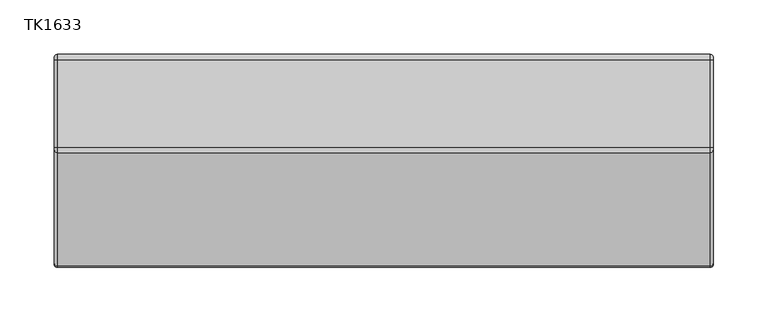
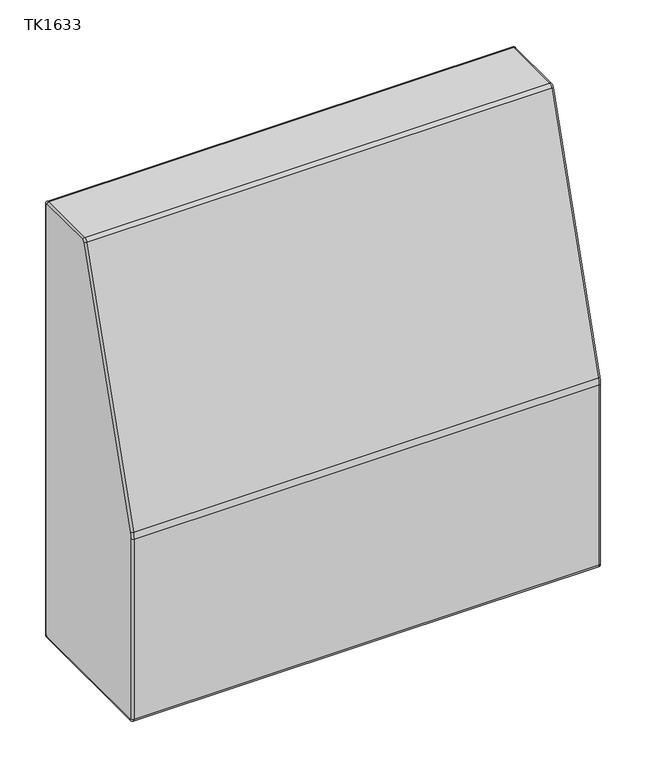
"""IFC4 building model written with IfcOpenShell, lengths in millimetres: furniture geometry, JSI-Teekan-Three_Seat_Lounge : TK1633."""

from ifc_helpers import new_model, si_unit, point, frame, origin, place, context, project, spatial, circle_curve, ellipse_curve, trimmed, source, transform, mapped, element, save
from ifc_brep_helpers import plane_surface, cylinder_surface, revolved_surface, advanced_brep


def tk1633_645ecb18(model_context):
    return source(origin(), model_context, "Body", "AdvancedBrep", [
        advanced_brep(
        [(302.6171875, 261.4671324, 783.3496278), (302.6171875, 263.7394056, 785.01875), (300.2359375, 263.7394056, 787.4), (300.2359375, 259.1948592, 784.0617556), (-300.2359375, 259.1948592, 784.0617556), (-300.2359375, 263.7394056, 787.4), (-302.6171875, 263.7394056, 785.01875), (-302.6171875, 261.4671324, 783.3496278), (300.2359375, 155.07802, 451.8434221), (302.6171875, 157.3502932, 451.1312943), (-302.6171875, 157.3502932, 451.1312943), (-300.2359375, 155.07802, 451.8434221), (300.2359375, 153.733973, 443.0605128), (302.6171875, 156.115223, 443.0605128), (-302.6171875, 156.115223, 443.0605128), (-300.2359375, 153.733973, 443.0605128), (300.2359375, 153.733973, 197.5346851), (302.6171875, 156.115223, 197.5346851), (-302.6171875, 156.115223, 197.5346851), (-300.2359375, 153.733973, 197.5346851), (300.2359375, 158.496473, 192.7721851), (302.6171875, 158.496473, 195.1534351), (-302.6171875, 158.496473, 195.1534351), (-300.2359375, 158.496473, 192.7721851), (300.2359375, 344.4875, 192.7721851), (302.6171875, 344.4875, 195.1534351), (-302.6171875, 344.4875, 195.1534351), (-300.2359375, 344.4875, 192.7721851), (300.2359375, 349.25, 197.5346851), (302.6171875, 346.86875, 197.5346851), (-302.6171875, 346.86875, 197.5346851), (-300.2359375, 349.25, 197.5346851), (300.2359375, 349.25, 782.6375), (302.6171875, 346.86875, 782.6375), (-302.6171875, 346.86875, 782.6375), (-300.2359375, 349.25, 782.6375), (300.2359375, 344.4875, 787.4), (302.6171875, 344.4875, 785.01875), (-302.6171875, 344.4875, 785.01875), (-300.2359375, 344.4875, 787.4)],
        [
            (0, 1, circle_curve(frame((302.6171875, 263.7394056, 782.6375), z_axis=(-1.0, 0.0, 0.0), x_axis=(0.0, 0.0, 1.0)), 2.38125)),
            (1, 2, circle_curve(frame((300.2359375, 263.7394056, 785.01875), z_axis=(0.0, -1.0, 0.0), x_axis=(0.0, 0.0, -1.0)), 2.38125)),
            (2, 3, circle_curve(frame((300.2359375, 263.7394056, 782.6375), z_axis=(1.0, 0.0, 0.0), x_axis=(0.0, 0.0, 1.0)), 4.7625)),
            (3, 0, circle_curve(frame((300.2359375, 261.4671324, 783.3496278), z_axis=(0.0, 0.29905628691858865, 0.9542354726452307), x_axis=(0.0, 0.9542354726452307, -0.29905628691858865)), 2.38125)),
            (4, 5, circle_curve(frame((-300.2359375, 263.7394056, 782.6375), z_axis=(-1.0, 0.0, 0.0), x_axis=(0.0, 0.0, 1.0)), 4.7625)),
            (5, 6, circle_curve(frame((-300.2359375, 263.7394056, 785.01875), z_axis=(0.0, -1.0, 0.0), x_axis=(0.0, 0.0, -1.0)), 2.38125)),
            (6, 7, circle_curve(frame((-302.6171875, 263.7394056, 782.6375), z_axis=(1.0, 0.0, 0.0), x_axis=(0.0, 0.0, 1.0)), 2.38125)),
            (7, 4, circle_curve(frame((-300.2359375, 261.4671324, 783.3496278), z_axis=(0.0, 0.29905628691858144, 0.9542354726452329), x_axis=(0.0, 0.9542354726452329, -0.29905628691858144)), 2.38125)),
            (2, 5),
            (4, 3),
            (3, 8),
            (8, 9, circle_curve(frame((300.2359375, 157.3502932, 451.1312943), z_axis=(0.0, 0.29905628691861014, 0.954235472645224), x_axis=(0.0, 0.954235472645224, -0.29905628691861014)), 2.38125)),
            (9, 0),
            (7, 10),
            (10, 11, circle_curve(frame((-300.2359375, 157.3502932, 451.1312943), z_axis=(0.0, 0.29905628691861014, 0.954235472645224), x_axis=(0.0, 0.954235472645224, -0.29905628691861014)), 2.38125)),
            (11, 4),
            (11, 8),
            (8, 12, circle_curve(frame((300.2359375, 183.102723, 443.0605128), z_axis=(1.0, 0.0, 0.0), x_axis=(0.0, -0.9542354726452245, 0.29905628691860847)), 29.36875)),
            (12, 13, circle_curve(frame((300.2359375, 156.115223, 443.0605128), z_axis=(0.0, 0.0, 1.0), x_axis=(0.0, 1.0, 0.0)), 2.38125)),
            (13, 9, circle_curve(frame((302.6171875, 183.102723, 443.0605128), z_axis=(-1.0, 0.0, 0.0), x_axis=(0.0, -0.9542354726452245, 0.29905628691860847)), 26.9875)),
            (10, 14, circle_curve(frame((-302.6171875, 183.102723, 443.0605128), z_axis=(1.0, 0.0, 0.0), x_axis=(0.0, -0.9542354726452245, 0.29905628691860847)), 26.9875)),
            (14, 15, circle_curve(frame((-300.2359375, 156.115223, 443.0605128), z_axis=(0.0, 0.0, 1.0), x_axis=(0.0, 1.0, 0.0)), 2.38125)),
            (15, 11, circle_curve(frame((-300.2359375, 183.102723, 443.0605128), z_axis=(-1.0, 0.0, 0.0), x_axis=(0.0, -0.9542354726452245, 0.29905628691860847)), 29.36875)),
            (15, 12),
            (12, 16),
            (16, 17, circle_curve(frame((300.2359375, 156.115223, 197.5346851), z_axis=(0.0, 0.0, 1.0), x_axis=(0.0, 1.0, 0.0)), 2.38125)),
            (17, 13),
            (14, 18),
            (18, 19, circle_curve(frame((-300.2359375, 156.115223, 197.5346851), z_axis=(0.0, 0.0, 1.0), x_axis=(0.0, 1.0, 0.0)), 2.38125)),
            (19, 15),
            (19, 16),
            (16, 20, circle_curve(frame((300.2359375, 158.496473, 197.5346851), z_axis=(1.0, 0.0, 0.0), x_axis=(0.0, -1.0, 0.0)), 4.7625)),
            (20, 21, circle_curve(frame((300.2359375, 158.496473, 195.1534351), z_axis=(0.0, -1.0, 0.0), x_axis=(0.0, 0.0, 1.0)), 2.38125)),
            (21, 17, circle_curve(frame((302.6171875, 158.496473, 197.5346851), z_axis=(-1.0, 0.0, 0.0), x_axis=(0.0, -1.0, 0.0)), 2.38125)),
            (18, 22, circle_curve(frame((-302.6171875, 158.496473, 197.5346851), z_axis=(1.0, 0.0, 0.0), x_axis=(0.0, -1.0, 0.0)), 2.38125)),
            (22, 23, circle_curve(frame((-300.2359375, 158.496473, 195.1534351), z_axis=(0.0, -1.0, 0.0), x_axis=(0.0, 0.0, 1.0)), 2.38125)),
            (23, 19, circle_curve(frame((-300.2359375, 158.496473, 197.5346851), z_axis=(-1.0, 0.0, 0.0), x_axis=(0.0, -1.0, 0.0)), 4.7625)),
            (23, 20),
            (20, 24),
            (24, 25, circle_curve(frame((300.2359375, 344.4875, 195.1534351), z_axis=(0.0, -1.0, 0.0), x_axis=(0.0, 0.0, 1.0)), 2.38125)),
            (25, 21),
            (22, 26),
            (26, 27, circle_curve(frame((-300.2359375, 344.4875, 195.1534351), z_axis=(0.0, -1.0, 0.0), x_axis=(0.0, 0.0, 1.0)), 2.38125)),
            (27, 23),
            (27, 24),
            (24, 28, circle_curve(frame((300.2359375, 344.4875, 197.5346851), z_axis=(1.0, 0.0, 0.0), x_axis=(0.0, 0.0, -1.0)), 4.7625)),
            (28, 29, circle_curve(frame((300.2359375, 346.86875, 197.5346851), z_axis=(0.0, 0.0, -1.0), x_axis=(0.0, -1.0, 0.0)), 2.38125)),
            (29, 25, circle_curve(frame((302.6171875, 344.4875, 197.5346851), z_axis=(-1.0, 0.0, 0.0), x_axis=(0.0, 0.0, -1.0)), 2.38125)),
            (26, 30, circle_curve(frame((-302.6171875, 344.4875, 197.5346851), z_axis=(1.0, 0.0, 0.0), x_axis=(0.0, 0.0, -1.0)), 2.38125)),
            (30, 31, circle_curve(frame((-300.2359375, 346.86875, 197.5346851), z_axis=(0.0, 0.0, -1.0), x_axis=(0.0, -1.0, 0.0)), 2.38125)),
            (31, 27, circle_curve(frame((-300.2359375, 344.4875, 197.5346851), z_axis=(-1.0, 0.0, 0.0), x_axis=(0.0, 0.0, -1.0)), 4.7625)),
            (31, 28),
            (28, 32),
            (32, 33, circle_curve(frame((300.2359375, 346.86875, 782.6375), z_axis=(0.0, 0.0, -1.0), x_axis=(0.0, -1.0, 0.0)), 2.38125)),
            (33, 29),
            (30, 34),
            (34, 35, circle_curve(frame((-300.2359375, 346.86875, 782.6375), z_axis=(0.0, 0.0, -1.0), x_axis=(0.0, -1.0, 0.0)), 2.38125)),
            (35, 31),
            (35, 32),
            (32, 36, circle_curve(frame((300.2359375, 344.4875, 782.6375), z_axis=(1.0, 0.0, 0.0), x_axis=(0.0, 1.0, 0.0)), 4.7625)),
            (36, 37, circle_curve(frame((300.2359375, 344.4875, 785.01875), z_axis=(0.0, 1.0, 0.0), x_axis=(0.0, 0.0, -1.0)), 2.38125)),
            (37, 33, circle_curve(frame((302.6171875, 344.4875, 782.6375), z_axis=(-1.0, 0.0, 0.0), x_axis=(0.0, 1.0, 0.0)), 2.38125)),
            (34, 38, circle_curve(frame((-302.6171875, 344.4875, 782.6375), z_axis=(1.0, 0.0, 0.0), x_axis=(0.0, 1.0, 0.0)), 2.38125)),
            (38, 39, circle_curve(frame((-300.2359375, 344.4875, 785.01875), z_axis=(0.0, 1.0, 0.0), x_axis=(0.0, 0.0, -1.0)), 2.38125)),
            (39, 35, circle_curve(frame((-300.2359375, 344.4875, 782.6375), z_axis=(-1.0, 0.0, 0.0), x_axis=(0.0, 1.0, 0.0)), 4.7625)),
            (39, 36),
            (1, 37),
            (36, 2),
            (6, 38),
            (5, 39),
        ],
        [
            revolved_surface(trimmed(ellipse_curve(frame((300.2359375, 263.7394056, 785.01875), z_axis=(0.0, 1.0, 0.0), x_axis=(0.0, 0.0, -1.0)), 2.38125, 2.38125), [point((300.2359375, 263.7394056, 787.4))], [point((302.6171875, 263.7394056, 785.01875))], True, "CARTESIAN"), (0.0, 263.7394056, 782.6375), (1.0, 0.0, 0.0)),
            revolved_surface(trimmed(ellipse_curve(frame((-300.2359375, 263.7394056, 785.01875), z_axis=(0.0, 1.0, 0.0), x_axis=(0.0, 0.0, -1.0)), 2.38125, 2.38125), [point((-302.6171875, 263.7394056, 785.01875))], [point((-300.2359375, 263.7394056, 787.4))], True, "CARTESIAN"), (0.0, 263.7394056, 782.6375), (1.0, 0.0, 0.0)),
            cylinder_surface(frame((0.0, 263.7394056, 782.6375), z_axis=(1.0, 0.0, 0.0), x_axis=(0.0, 0.0, 1.0)), 4.7625),
            cylinder_surface(frame((300.2359375, 261.4671324, 783.3496278), z_axis=(0.0, 0.29905628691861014, 0.954235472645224), x_axis=(0.0, 0.954235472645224, -0.29905628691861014)), 2.38125),
            cylinder_surface(frame((-300.2359375, 261.4671324, 783.3496278), z_axis=(0.0, 0.29905628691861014, 0.954235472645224), x_axis=(0.0, 0.954235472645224, -0.29905628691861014)), 2.38125),
            plane_surface(frame((-300.2359375, 259.1948592, 784.0617556), z_axis=(0.0, -0.954235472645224, 0.29905628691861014), x_axis=(0.0, -0.29905628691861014, -0.954235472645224))),
            revolved_surface(trimmed(ellipse_curve(frame((300.2359375, 157.3502932, 451.1312943), z_axis=(0.0, 0.299056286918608, 0.9542354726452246), x_axis=(0.0, 0.9542354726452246, -0.299056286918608)), 2.38125, 2.38125), [point((300.2359375, 155.07802, 451.8434221))], [point((302.6171875, 157.3502932, 451.1312943))], True, "CARTESIAN"), (0.0, 183.102723, 443.0605128), (1.0, 0.0, 0.0)),
            revolved_surface(trimmed(ellipse_curve(frame((-300.2359375, 157.3502932, 451.1312943), z_axis=(0.0, 0.299056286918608, 0.9542354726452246), x_axis=(0.0, 0.9542354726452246, -0.299056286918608)), 2.38125, 2.38125), [point((-302.6171875, 157.3502932, 451.1312943))], [point((-300.2359375, 155.07802, 451.8434221))], True, "CARTESIAN"), (0.0, 183.102723, 443.0605128), (1.0, 0.0, 0.0)),
            cylinder_surface(frame((0.0, 183.102723, 443.0605128), z_axis=(1.0, 0.0, 0.0), x_axis=(0.0, -0.9542354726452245, 0.29905628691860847)), 29.36875),
            cylinder_surface(frame((300.2359375, 156.115223, 443.0605128), z_axis=(0.0, 0.0, 1.0), x_axis=(0.0, 1.0, 0.0)), 2.38125),
            cylinder_surface(frame((-300.2359375, 156.115223, 443.0605128), z_axis=(0.0, 0.0, 1.0), x_axis=(0.0, 1.0, 0.0)), 2.38125),
            plane_surface(frame((-300.2359375, 153.733973, 443.0605128), z_axis=(0.0, -1.0, 0.0), x_axis=(0.0, 0.0, -1.0))),
            revolved_surface(trimmed(ellipse_curve(frame((300.2359375, 156.115223, 197.5346851), z_axis=(0.0, 0.0, 1.0), x_axis=(0.0, 1.0, 0.0)), 2.38125, 2.38125), [point((300.2359375, 153.733973, 197.5346851))], [point((302.6171875, 156.115223, 197.5346851))], True, "CARTESIAN"), (0.0, 158.496473, 197.5346851), (1.0, 0.0, 0.0)),
            revolved_surface(trimmed(ellipse_curve(frame((-300.2359375, 156.115223, 197.5346851), z_axis=(0.0, 0.0, 1.0), x_axis=(0.0, 1.0, 0.0)), 2.38125, 2.38125), [point((-302.6171875, 156.115223, 197.5346851))], [point((-300.2359375, 153.733973, 197.5346851))], True, "CARTESIAN"), (0.0, 158.496473, 197.5346851), (1.0, 0.0, 0.0)),
            cylinder_surface(frame((0.0, 158.496473, 197.5346851), z_axis=(1.0, 0.0, 0.0), x_axis=(0.0, -1.0, 0.0)), 4.7625),
            cylinder_surface(frame((300.2359375, 158.496473, 195.1534351), z_axis=(0.0, -1.0, 0.0), x_axis=(0.0, 0.0, 1.0)), 2.38125),
            cylinder_surface(frame((-300.2359375, 158.496473, 195.1534351), z_axis=(0.0, -1.0, 0.0), x_axis=(0.0, 0.0, 1.0)), 2.38125),
            plane_surface(frame((-300.2359375, 158.496473, 192.7721851), z_axis=(0.0, 0.0, -1.0), x_axis=(0.0, 1.0, 0.0))),
            revolved_surface(trimmed(ellipse_curve(frame((300.2359375, 344.4875, 195.1534351), z_axis=(0.0, -1.0, 0.0), x_axis=(0.0, 0.0, 1.0)), 2.38125, 2.38125), [point((300.2359375, 344.4875, 192.7721851))], [point((302.6171875, 344.4875, 195.1534351))], True, "CARTESIAN"), (0.0, 344.4875, 197.5346851), (1.0, 0.0, 0.0)),
            revolved_surface(trimmed(ellipse_curve(frame((-300.2359375, 344.4875, 195.1534351), z_axis=(0.0, -1.0, 0.0), x_axis=(0.0, 0.0, 1.0)), 2.38125, 2.38125), [point((-302.6171875, 344.4875, 195.1534351))], [point((-300.2359375, 344.4875, 192.7721851))], True, "CARTESIAN"), (0.0, 344.4875, 197.5346851), (1.0, 0.0, 0.0)),
            cylinder_surface(frame((0.0, 344.4875, 197.5346851), z_axis=(1.0, 0.0, 0.0), x_axis=(0.0, 0.0, -1.0)), 4.7625),
            cylinder_surface(frame((300.2359375, 346.86875, 197.5346851), z_axis=(0.0, 0.0, -1.0), x_axis=(0.0, -1.0, 0.0)), 2.38125),
            cylinder_surface(frame((-300.2359375, 346.86875, 197.5346851), z_axis=(0.0, 0.0, -1.0), x_axis=(0.0, -1.0, 0.0)), 2.38125),
            plane_surface(frame((-300.2359375, 349.25, 197.5346851), z_axis=(0.0, 1.0, 0.0), x_axis=(0.0, 0.0, 1.0))),
            revolved_surface(trimmed(ellipse_curve(frame((300.2359375, 346.86875, 782.6375), z_axis=(0.0, 0.0, -1.0), x_axis=(0.0, -1.0, 0.0)), 2.38125, 2.38125), [point((300.2359375, 349.25, 782.6375))], [point((302.6171875, 346.86875, 782.6375))], True, "CARTESIAN"), (0.0, 344.4875, 782.6375), (1.0, 0.0, 0.0)),
            revolved_surface(trimmed(ellipse_curve(frame((-300.2359375, 346.86875, 782.6375), z_axis=(0.0, 0.0, -1.0), x_axis=(0.0, -1.0, 0.0)), 2.38125, 2.38125), [point((-302.6171875, 346.86875, 782.6375))], [point((-300.2359375, 349.25, 782.6375))], True, "CARTESIAN"), (0.0, 344.4875, 782.6375), (1.0, 0.0, 0.0)),
            cylinder_surface(frame((0.0, 344.4875, 782.6375), z_axis=(1.0, 0.0, 0.0), x_axis=(0.0, 1.0, 0.0)), 4.7625),
            cylinder_surface(frame((300.2359375, 344.4875, 785.01875), z_axis=(0.0, 1.0, 0.0), x_axis=(0.0, 0.0, -1.0)), 2.38125),
            plane_surface(frame((302.6171875, 344.4875, 785.01875), z_axis=(1.0, 0.0, 0.0), x_axis=(0.0, -1.0, 0.0))),
            plane_surface(frame((-302.6171875, 344.4875, 783.43125), z_axis=(-1.0, 0.0, 0.0), x_axis=(0.0, -1.0, 0.0))),
            cylinder_surface(frame((-300.2359375, 344.4875, 785.01875), z_axis=(0.0, 1.0, 0.0), x_axis=(0.0, 0.0, -1.0)), 2.38125),
            plane_surface(frame((-300.2359375, 344.4875, 787.4), z_axis=(0.0, 0.0, 1.0), x_axis=(0.0, -1.0, 0.0))),
        ],
        [
            (0, [[1, 2, 3, 4]]),
            (1, [[5, 6, 7, 8]]),
            (2, [[-3, 9, -5, 10]]),
            (3, [[-4, 11, 12, 13]]),
            (4, [[-8, 14, 15, 16]]),
            (5, [[-10, -16, 17, -11]]),
            (6, [[-12, 18, 19, 20]]),
            (7, [[-15, 21, 22, 23]]),
            (8, [[-17, -23, 24, -18]]),
            (9, [[-19, 25, 26, 27]]),
            (10, [[-22, 28, 29, 30]]),
            (11, [[-24, -30, 31, -25]]),
            (12, [[-26, 32, 33, 34]]),
            (13, [[-29, 35, 36, 37]]),
            (14, [[-31, -37, 38, -32]]),
            (15, [[-33, 39, 40, 41]]),
            (16, [[-36, 42, 43, 44]]),
            (17, [[-38, -44, 45, -39]]),
            (18, [[-40, 46, 47, 48]]),
            (19, [[-43, 49, 50, 51]]),
            (20, [[-45, -51, 52, -46]]),
            (21, [[-47, 53, 54, 55]]),
            (22, [[-50, 56, 57, 58]]),
            (23, [[-52, -58, 59, -53]]),
            (24, [[-54, 60, 61, 62]]),
            (25, [[-57, 63, 64, 65]]),
            (26, [[-59, -65, 66, -60]]),
            (27, [[-2, 67, -61, 68]]),
            (28, [[-1, -13, -20, -27, -34, -41, -48, -55, -62, -67]]),
            (29, [[-7, 69, -63, -56, -49, -42, -35, -28, -21, -14]]),
            (30, [[-6, 70, -64, -69]]),
            (31, [[-9, -68, -66, -70]]),
        ],
    ),
    ])


if __name__ == "__main__":
    model = new_model("IFC4")
    model_context = context("Model", 3, world=origin())
    ifc_project = project(units=[si_unit("LENGTHUNIT", "METRE", prefix="MILLI")], contexts=[model_context])
    site = spatial("IfcSite", under=ifc_project)
    building = spatial("IfcBuilding", under=site)
    placement = place(None, origin())
    tk1633_shape = tk1633_645ecb18(model_context)
    element("IfcFurniture", 1, ObjectType="JSI-Teekan-Three_Seat_Lounge : TK1633", at=placement, inside=building, context=model_context, shape_type="MappedRepresentation", body=[
        mapped(tk1633_shape, transform((0.0, 0.0, 0.0), x_axis=(1.0, 0.0, 0.0), y_axis=(0.0, 1.0, 0.0), z_axis=(0.0, 0.0, 1.0))),
    ])
    save(model, "model.ifc")
